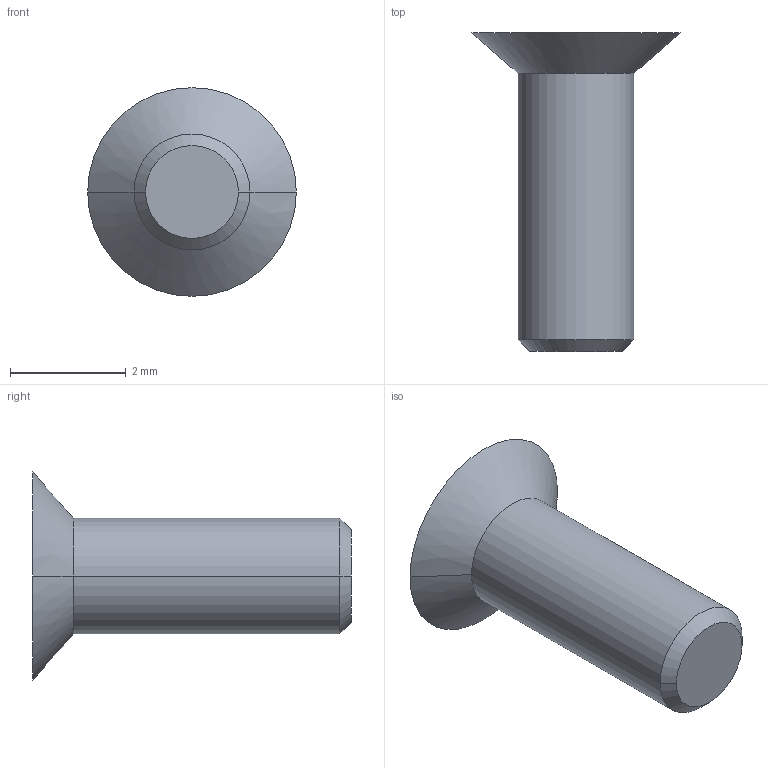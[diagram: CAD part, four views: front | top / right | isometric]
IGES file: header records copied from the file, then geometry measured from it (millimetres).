
Start section:  PTC IGES file: s20_45_outside_prt.igs
Global section: file name: s20_45_outside_prt.igs; native system: Pro/ENGINEER by Parametric Technology Corporation; preprocessor: 2000030; author: ECaille; organization: Unknown; date: 000803.092132; units: millimetre
Bounding box: 3.6 x 5.5 x 3.6 mm (x, y, z)
Surface area: 54.9 mm2 (no closed solid volume)
Topology: 0 solids, 0 shells, 21 faces, 159 edges, 214 vertices
Faces by surface type: bspline 15, revolution 6
